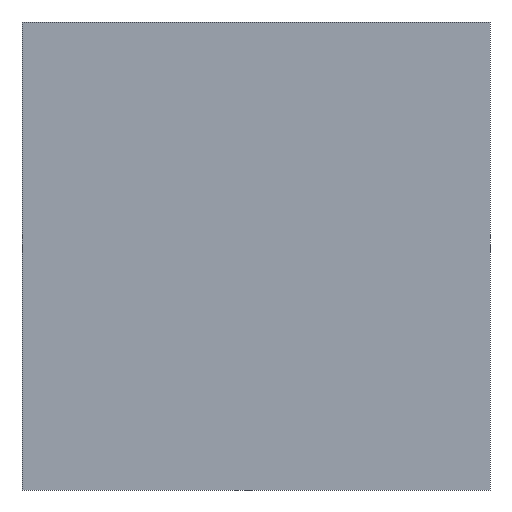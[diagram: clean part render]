
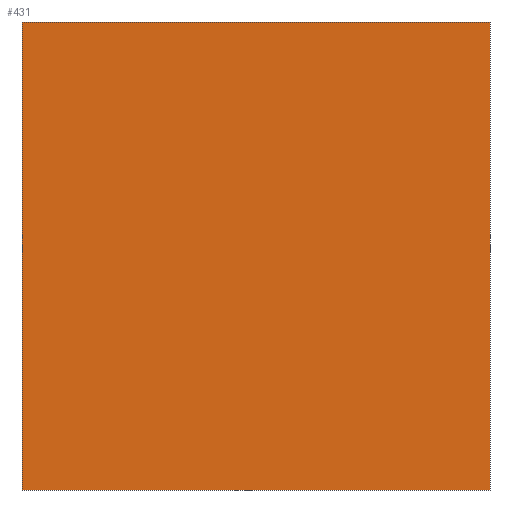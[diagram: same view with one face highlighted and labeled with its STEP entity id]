
A CAD part, front view. The second image highlights one B-rep face of the part: STEP entity #431.
In plain terms, the highlighted planar face has unit normal (0, -1, 0).
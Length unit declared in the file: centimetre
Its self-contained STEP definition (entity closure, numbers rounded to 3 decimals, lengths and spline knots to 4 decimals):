
#21 = LINE ( 'NONE', #451, #45 ) ;
#31 = ORIENTED_EDGE ( 'NONE', *, *, #313, .F. ) ;
#45 = VECTOR ( 'NONE', #468, 100. ) ;
#75 = VERTEX_POINT ( 'NONE', #111 ) ;
#101 = CARTESIAN_POINT ( 'NONE',  ( 0., 0., 1000. ) ) ;
#109 = LINE ( 'NONE', #502, #659 ) ;
#111 = CARTESIAN_POINT ( 'NONE',  ( 1000., 0., 0. ) ) ;
#138 = CARTESIAN_POINT ( 'NONE',  ( 1000., 0., 1000. ) ) ;
#161 = CARTESIAN_POINT ( 'NONE',  ( 0., 0., 1000. ) ) ;
#170 = LINE ( 'NONE', #300, #692 ) ;
#173 = EDGE_CURVE ( 'NONE', #793, #209, #109, .T. ) ;
#191 = LINE ( 'NONE', #253, #279 ) ;
#209 = VERTEX_POINT ( 'NONE', #138 ) ;
#253 = CARTESIAN_POINT ( 'NONE',  ( 0., 0., 0. ) ) ;
#279 = VECTOR ( 'NONE', #522, 100. ) ;
#296 = DIRECTION ( 'NONE',  ( 0., 1., 0. ) ) ;
#300 = CARTESIAN_POINT ( 'NONE',  ( 0., 0., 1000. ) ) ;
#313 = EDGE_CURVE ( 'NONE', #209, #75, #21, .T. ) ;
#326 = ORIENTED_EDGE ( 'NONE', *, *, #732, .T. ) ;
#346 = ORIENTED_EDGE ( 'NONE', *, *, #354, .T. ) ;
#354 = EDGE_CURVE ( 'NONE', #676, #75, #191, .T. ) ;
#360 = FACE_OUTER_BOUND ( 'NONE', #773, .T. ) ;
#367 = DIRECTION ( 'NONE',  ( 1., 0., 0. ) ) ;
#431 = ADVANCED_FACE ( 'NONE', ( #360 ), #796, .F. ) ;
#451 = CARTESIAN_POINT ( 'NONE',  ( 1000., 0., 1000. ) ) ;
#457 = AXIS2_PLACEMENT_3D ( 'NONE', #161, #296, #624 ) ;
#468 = DIRECTION ( 'NONE',  ( 0., 0., -1. ) ) ;
#497 = CARTESIAN_POINT ( 'NONE',  ( 0., 0., 0. ) ) ;
#502 = CARTESIAN_POINT ( 'NONE',  ( 0., 0., 1000. ) ) ;
#522 = DIRECTION ( 'NONE',  ( 1., 0., 0. ) ) ;
#624 = DIRECTION ( 'NONE',  ( 0., 0., 1. ) ) ;
#659 = VECTOR ( 'NONE', #367, 100. ) ;
#676 = VERTEX_POINT ( 'NONE', #497 ) ;
#692 = VECTOR ( 'NONE', #811, 100. ) ;
#729 = ORIENTED_EDGE ( 'NONE', *, *, #173, .F. ) ;
#732 = EDGE_CURVE ( 'NONE', #793, #676, #170, .T. ) ;
#773 = EDGE_LOOP ( 'NONE', ( #346, #31, #729, #326 ) ) ;
#793 = VERTEX_POINT ( 'NONE', #101 ) ;
#796 = PLANE ( 'NONE',  #457 ) ;
#811 = DIRECTION ( 'NONE',  ( 0., 0., -1. ) ) ;
